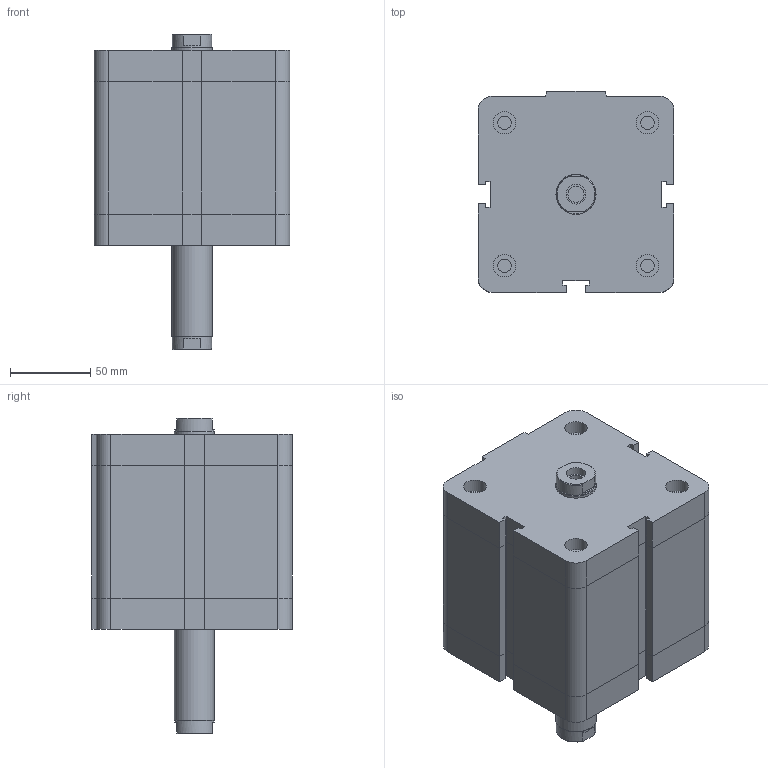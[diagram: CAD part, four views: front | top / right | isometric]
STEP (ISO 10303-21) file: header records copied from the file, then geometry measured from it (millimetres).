
FILE_DESCRIPTION((''),'2;1');
FILE_NAME('I:\Area Tecnica\Disegni\VARIE-3D\Componenti\EUROPE\15##_###_####_03_#\1561_100_0055_03_1.iam.stp','2009-04-20T14:34:36',(''),(''),'Autodesk Inventor 2009','Autodesk Inventor 2009','');
FILE_SCHEMA(('AUTOMOTIVE_DESIGN { 1 0 10303 214 1 1 1 1 }'));
Length unit declared in the file: millimetre
Products named in the file (3): 1561_100_0055_03_1; 1561_100_0055_03_1_C; 1561_100_0055_03_1_S
Assembly tree (2 placements, depth 2):
  1561_100_0055_03_1
    1561_100_0055_03_1_C
    1561_100_0055_03_1_S
Bounding box: 122 x 125 x 196.5 mm (x, y, z)
Volume: 1789595.6 mm3; surface area: 128886.5 mm2
Topology: 2 solids, 2 shells, 174 faces, 379 edges, 231 vertices
Faces by surface type: plane 114, bspline 29, cylinder 25, cone 6
Full cylindrical faces by diameter (mm): 8.376 x4, 10.106 x1, 12.3 x1, 14 x4, 24.5 x2, 25 x1
Entity records: 4758 total; most frequent: CARTESIAN_POINT 1020, DIRECTION 708, ORIENTED_EDGE 676, EDGE_CURVE 338, VECTOR 252, LINE 252, AXIS2_PLACEMENT_3D 228, EDGE_LOOP 226
